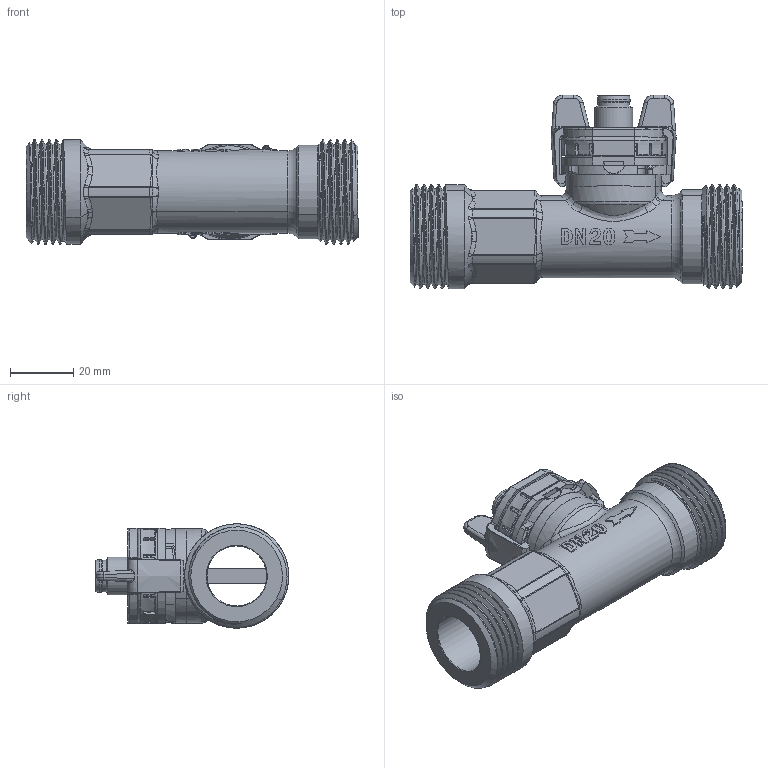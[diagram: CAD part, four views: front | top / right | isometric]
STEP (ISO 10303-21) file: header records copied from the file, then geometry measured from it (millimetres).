
FILE_DESCRIPTION(/* description */ (''),/* implementation_level */ '2;1');
FILE_NAME(/* name */ '236_x20x5xK.stp',/* time_stamp */ '2019-02-06T09:36:20+01:00',/* author */ (''),/* organization */ (''),/* preprocessor_version */ 'ST-DEVELOPER v16.7',/* originating_system */ 'SIEMENS PLM Software NX 12.0',/* authorisation */ '');
FILE_SCHEMA (('AUTOMOTIVE_DESIGN { 1 0 10303 214 3 1 1 1 }'));
Products named in the file (1): model1
Bounding box: 105 x 61.25 x 33 mm (x, y, z)
Volume: 56868.7 mm3; surface area: 30036.1 mm2
Topology: 3 solids, 3 shells, 1281 faces, 3402 edges, 2142 vertices
Faces by surface type: plane 493, cylinder 263, bspline 209, cone 110, torus 101, extrusion 83, sphere 22
Full cylindrical faces by diameter (mm): 1 x5, 5.76 x1, 6.7 x1, 7.98 x2, 8.98 x3, 9.25 x1, 10 x1, 10.4 x1, 12 x1, 15.17 x1, 15.4 x1
Entity records: 65992 total; most frequent: CARTESIAN_POINT 29864, ORIENTED_EDGE 6608, DIRECTION 4808, EDGE_CURVE 3304, VERTEX_POINT 2118, AXIS2_PLACEMENT_3D 1878, B_SPLINE_CURVE_WITH_KNOTS 1530, EDGE_LOOP 1398
